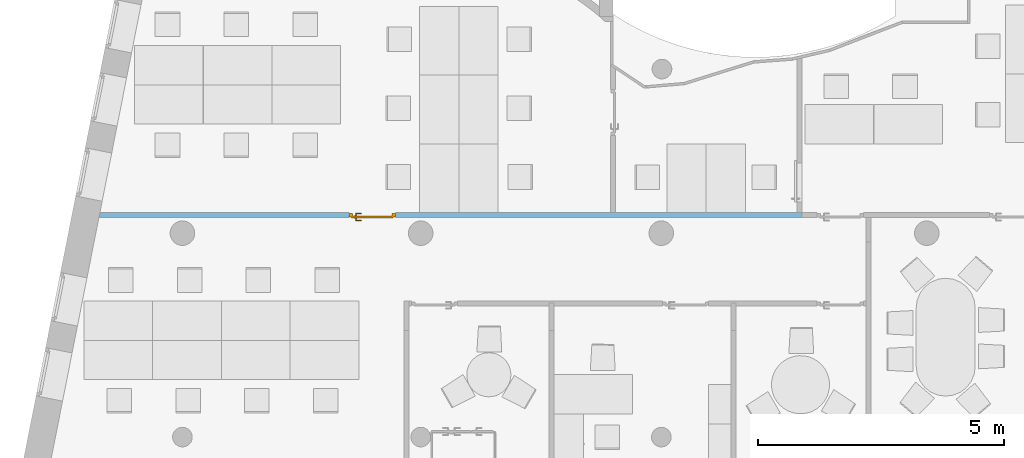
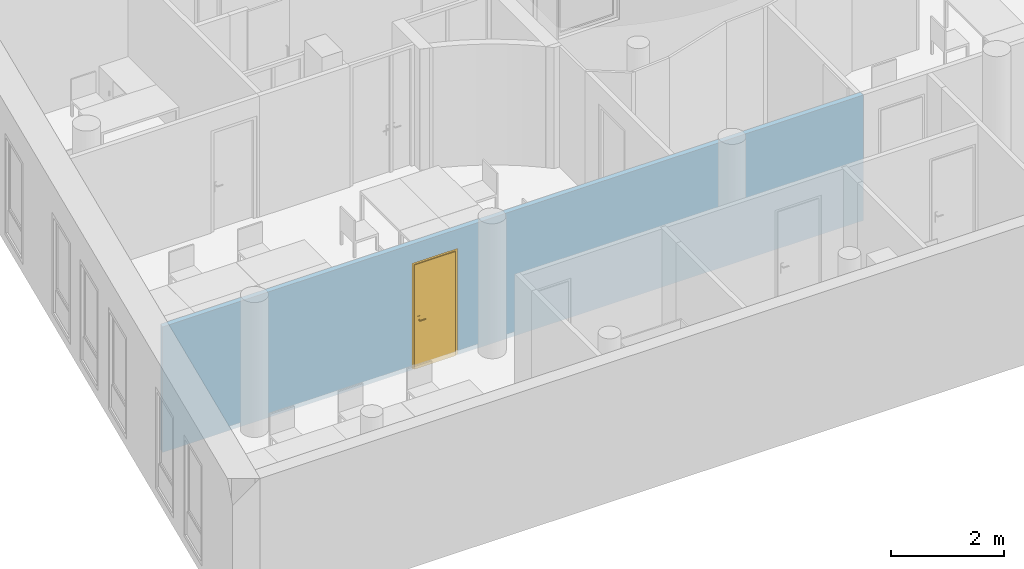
"""IFC4 building model written with IfcOpenShell, lengths in metres."""

from ifc_helpers import new_model, entity, si_unit, converted_unit, derived_unit, frame, origin, origin_with_axes, place, context, subcontext, project, spatial, polyline, outline, extrude, faceted_brep, source, transform, mapped, material, layer, layer_set, layer_usage, element, fill, save


model = new_model("IFC4")

# Units and contexts
model_context = context("Model", 3, precision=1e-05, world=origin())
body_context = subcontext(model_context, "Body", "Model", "MODEL_VIEW")
ifc_project = project(units=[si_unit("LENGTHUNIT", "METRE"), si_unit("AREAUNIT", "SQUARE_METRE"), si_unit("VOLUMEUNIT", "CUBIC_METRE"), si_unit("MASSUNIT", "GRAM", prefix="KILO"), converted_unit("PLANEANGLEUNIT", "DEGREE", entity("IfcPlaneAngleMeasure", 0.0174532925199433), si_unit("PLANEANGLEUNIT", "RADIAN"), dimensions=[0, 0, 0, 0, 0, 0, 0]), derived_unit("THERMALTRANSMITTANCEUNIT", [(si_unit("POWERUNIT", "WATT"), 1), (si_unit("THERMODYNAMICTEMPERATUREUNIT", "KELVIN"), -1), (si_unit("LENGTHUNIT", "METRE"), -2)]), derived_unit("VOLUMETRICFLOWRATEUNIT", [(si_unit("LENGTHUNIT", "METRE"), 3), (converted_unit("TIMEUNIT", "hour", entity("IfcTimeMeasure", 3600.0), si_unit("TIMEUNIT", "SECOND"), dimensions=[0, 0, 1, 0, 0, 0, 0]), -1), (si_unit("LENGTHUNIT", "METRE"), -1)])], contexts=[model_context])

# Building, storeys
building_placement = place(None, origin())
building = spatial("IfcBuilding", under=ifc_project, at=building_placement, Name="HABITATGE PLURIFAMILIAR", CompositionType="ELEMENT")
storey_1_placement = place(building_placement, frame((0.0, 0.0, 9.26)))
storey_1 = spatial("IfcBuildingStorey", under=building, at=storey_1_placement, Name="PLANTA SEGONA", CompositionType="ELEMENT", Elevation=9.26)
storey_2_placement = place(storey_1_placement, frame((0.0, 0.0, 6.25)))
storey_2 = spatial("IfcBuildingStorey", under=storey_1, at=storey_2_placement, Name="NOU", CompositionType="PARTIAL")

# Wall, opening, door
ifc_material = material()
ifc_layer = layer(ifc_material, 0.1)
ifc_layer_set = layer_set([ifc_layer])
ifc_layer_usage = layer_usage(ifc_layer_set, "AXIS2", "POSITIVE", 0.0)
wall_placement = place(storey_2_placement, frame((399.291525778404, 18.1154678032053, -6.35)))
wall = element("IfcWall", 1, at=wall_placement, inside=storey_2, material=ifc_layer_usage, Name="Evans P2", context=body_context, shape_type="SweptSolid", body=[
    extrude(outline(polyline([(0.0, 0.0), (14.3055970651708, 0.0), (14.3055970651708, 0.1), (0.0197848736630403, 0.1), (0.0, 0.0)])), origin_with_axes(), (0.0, 0.0, 1.0), 2.71),
])
opening_placement = place(wall_placement, frame((5.08985948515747, 0.0, 0.0), z_axis=(0.0, 1.0, 0.0), x_axis=(0.0, 0.0, 1.0)))
opening = element("IfcOpeningElement", 2, at=opening_placement, cuts=wall, Name="Vano puerta", ObjectType="Opening", context=body_context, shape_type="SweptSolid", body=[
    extrude(outline(polyline([(2.3, 0.94), (2.3, 0.0), (0.0, 0.0), (0.0, 0.94), (2.3, 0.94)])), origin_with_axes(), (0.0, 0.0, 1.0), 0.1),
])
shared_shape = source(origin_with_axes(), body_context, "Body", "Brep", [
    faceted_brep([(0.94, 0.07, 2.3), (0.87, 0.07, 2.3), (0.87, 0.07, 0.0), (0.94, 0.07, 0.0), (0.94, 0.0, 0.0), (0.87, 0.0, 0.0), (0.87, 0.0, 2.3), (0.94, 0.0, 2.3)], [[[0, 1, 2, 3]], [[4, 5, 6, 7]], [[3, 4, 7, 0]], [[2, 5, 4, 3]], [[1, 6, 5, 2]], [[0, 7, 6, 1]]], orient=[[False], [False], [False], [False], [False], [False]]),
    faceted_brep([(0.07, 0.07, 2.3), (0.0, 0.07, 2.3), (0.0, 0.07, 0.0), (0.07, 0.07, 0.0), (0.07, 0.0, 0.0), (0.0, 0.0, 0.0), (0.0, 0.0, 2.3), (0.07, 0.0, 2.3)], [[[0, 1, 2, 3]], [[4, 5, 6, 7]], [[3, 4, 7, 0]], [[2, 5, 4, 3]], [[1, 6, 5, 2]], [[0, 7, 6, 1]]], orient=[[False], [False], [False], [False], [False], [False]]),
    faceted_brep([(0.87, 0.07, 2.3), (0.07, 0.07, 2.3), (0.07, 0.07, 2.23), (0.87, 0.07, 2.23), (0.87, 0.0, 2.23), (0.07, 0.0, 2.23), (0.07, 0.0, 2.3), (0.87, 0.0, 2.3)], [[[0, 1, 2, 3]], [[4, 5, 6, 7]], [[3, 4, 7, 0]], [[2, 5, 4, 3]], [[1, 6, 5, 2]], [[0, 7, 6, 1]]], orient=[[False], [False], [False], [False], [False], [False]]),
    faceted_brep([(0.89, 0.09, 2.25), (0.05, 0.09, 2.25), (0.05, 0.09, 0.0), (0.89, 0.09, 0.0), (0.89, 0.05, 0.0), (0.05, 0.05, 0.0), (0.05, 0.05, 2.25), (0.89, 0.05, 2.25)], [[[0, 1, 2, 3]], [[4, 5, 6, 7]], [[3, 4, 7, 0]], [[2, 5, 4, 3]], [[1, 6, 5, 2]], [[0, 7, 6, 1]]], orient=[[False], [False], [False], [False], [False], [False]]),
    faceted_brep([(0.83, 0.05, 1.125), (0.78, 0.05, 1.125), (0.78, 0.05, 0.91), (0.83, 0.05, 0.91), (0.83, 0.04, 0.91), (0.78, 0.04, 0.91), (0.78, 0.04, 1.125), (0.83, 0.04, 1.125)], [[[0, 1, 2, 3]], [[4, 5, 6, 7]], [[3, 4, 7, 0]], [[2, 5, 4, 3]], [[1, 6, 5, 2]], [[0, 7, 6, 1]]], orient=[[False], [False], [False], [False], [False], [False]]),
    faceted_brep([(0.805, 0.04, 1.06), (0.8, 0.04, 1.05866025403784), (0.796339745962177, 0.04, 1.055), (0.795, 0.04, 1.05), (0.796339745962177, 0.04, 1.045), (0.8, 0.04, 1.04133974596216), (0.805, 0.04, 1.04), (0.81, 0.04, 1.04133974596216), (0.813660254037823, 0.04, 1.045), (0.815, 0.04, 1.05), (0.813660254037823, 0.04, 1.055), (0.81, 0.04, 1.05866025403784), (0.81, -0.005, 1.05866025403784), (0.805, 0.0, 1.06), (0.813660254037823, -0.00866025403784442, 1.055), (0.815, -0.01, 1.05), (0.813660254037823, -0.00866025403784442, 1.045), (0.81, -0.005, 1.04133974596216), (0.805, 0.0, 1.04), (0.8, 0.005, 1.04133974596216), (0.796339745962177, 0.00866025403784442, 1.045), (0.795, 0.01, 1.05), (0.796339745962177, 0.00866025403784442, 1.055), (0.8, 0.005, 1.05866025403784), (0.69, 0.0, 1.06), (0.69, -0.005, 1.05866025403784), (0.69, -0.00866025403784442, 1.055), (0.69, -0.01, 1.05), (0.69, -0.00866025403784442, 1.045), (0.69, -0.005, 1.04133974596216), (0.69, 0.0, 1.04), (0.69, 0.005, 1.04133974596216), (0.69, 0.00866025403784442, 1.045), (0.69, 0.01, 1.05), (0.69, 0.00866025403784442, 1.055), (0.69, 0.005, 1.05866025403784)], [[[0, 1, 2, 3, 4, 5, 6, 7, 8, 9, 10, 11]], [[0, 11, 12, 13]], [[11, 10, 14, 12]], [[10, 9, 15, 14]], [[9, 8, 16, 15]], [[8, 7, 17, 16]], [[7, 6, 18, 17]], [[6, 5, 19, 18]], [[5, 4, 20, 19]], [[4, 3, 21, 20]], [[3, 2, 22, 21]], [[2, 1, 23, 22]], [[1, 0, 13, 23]], [[24, 25, 26, 27, 28, 29, 30, 31, 32, 33, 34, 35]], [[13, 12, 25, 24]], [[12, 14, 26, 25]], [[14, 15, 27, 26]], [[15, 16, 28, 27]], [[16, 17, 29, 28]], [[17, 18, 30, 29]], [[18, 19, 31, 30]], [[19, 20, 32, 31]], [[20, 21, 33, 32]], [[21, 22, 34, 33]], [[22, 23, 35, 34]], [[23, 13, 24, 35]]], orient=[[False], [False], [False], [False], [False], [False], [False], [False], [False], [False], [False], [False], [False], [False], [False], [False], [False], [False], [False], [False], [False], [False], [False], [False], [False], [False]]),
    faceted_brep([(0.83, 0.09, 1.125), (0.83, 0.09, 0.91), (0.78, 0.09, 0.91), (0.78, 0.09, 1.125), (0.83, 0.1, 0.91), (0.83, 0.1, 1.125), (0.78, 0.1, 1.125), (0.78, 0.1, 0.91)], [[[0, 1, 2, 3]], [[4, 5, 6, 7]], [[1, 0, 5, 4]], [[2, 1, 4, 7]], [[3, 2, 7, 6]], [[0, 3, 6, 5]]], orient=[[False], [False], [False], [False], [False], [False]]),
    faceted_brep([(0.805, 0.1, 1.06), (0.81, 0.1, 1.05866025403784), (0.813660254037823, 0.1, 1.055), (0.815, 0.1, 1.05), (0.813660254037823, 0.1, 1.045), (0.81, 0.1, 1.04133974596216), (0.805, 0.1, 1.04), (0.8, 0.1, 1.04133974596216), (0.796339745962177, 0.1, 1.045), (0.795, 0.1, 1.05), (0.796339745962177, 0.1, 1.055), (0.8, 0.1, 1.05866025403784), (0.805, 0.14, 1.06), (0.81, 0.145, 1.05866025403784), (0.813660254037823, 0.148660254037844, 1.055), (0.815, 0.15, 1.05), (0.813660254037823, 0.148660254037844, 1.045), (0.81, 0.145, 1.04133974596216), (0.805, 0.14, 1.04), (0.8, 0.135, 1.04133974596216), (0.796339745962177, 0.131339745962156, 1.045), (0.795, 0.13, 1.05), (0.796339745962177, 0.131339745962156, 1.055), (0.8, 0.135, 1.05866025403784), (0.69, 0.14, 1.06), (0.69, 0.135, 1.05866025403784), (0.69, 0.131339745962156, 1.055), (0.69, 0.13, 1.05), (0.69, 0.131339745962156, 1.045), (0.69, 0.135, 1.04133974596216), (0.69, 0.14, 1.04), (0.69, 0.145, 1.04133974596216), (0.69, 0.148660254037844, 1.045), (0.69, 0.15, 1.05), (0.69, 0.148660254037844, 1.055), (0.69, 0.145, 1.05866025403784)], [[[0, 1, 2, 3, 4, 5, 6, 7, 8, 9, 10, 11]], [[0, 12, 13, 1]], [[1, 13, 14, 2]], [[2, 14, 15, 3]], [[3, 15, 16, 4]], [[4, 16, 17, 5]], [[5, 17, 18, 6]], [[6, 18, 19, 7]], [[7, 19, 20, 8]], [[8, 20, 21, 9]], [[9, 21, 22, 10]], [[10, 22, 23, 11]], [[11, 23, 12, 0]], [[24, 25, 26, 27, 28, 29, 30, 31, 32, 33, 34, 35]], [[12, 24, 35, 13]], [[13, 35, 34, 14]], [[14, 34, 33, 15]], [[15, 33, 32, 16]], [[16, 32, 31, 17]], [[17, 31, 30, 18]], [[18, 30, 29, 19]], [[19, 29, 28, 20]], [[20, 28, 27, 21]], [[21, 27, 26, 22]], [[22, 26, 25, 23]], [[23, 25, 24, 12]]], orient=[[False], [False], [False], [False], [False], [False], [False], [False], [False], [False], [False], [False], [False], [False], [False], [False], [False], [False], [False], [False], [False], [False], [False], [False], [False], [False]]),
])
door_placement = place(opening_placement, frame((0.0, 0.94, 0.085), z_axis=(1.0, 0.0, 0.0), x_axis=(0.0, -1.0, 0.0)))
door = element("IfcDoor", 3, at=door_placement, inside=storey_2, Name="Porta P2", OperationType="USERDEFINED", OverallHeight=2.3, OverallWidth=0.94, PredefinedType="DOOR", context=body_context, shape_type="MappedRepresentation", body=[
    mapped(shared_shape, transform((0.0, 0.0, 0.0), x_axis=(1.0, 0.0, 0.0), y_axis=(0.0, 1.0, 0.0), z_axis=(0.0, 0.0, 1.0), scale=1.0)),
])
fill(opening, door)

save(model, "model.ifc")
